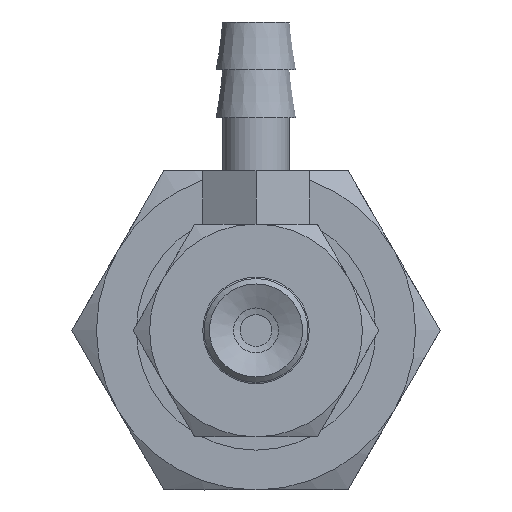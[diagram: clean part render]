
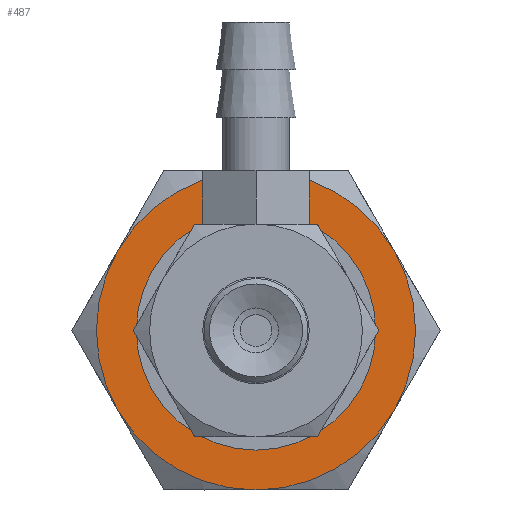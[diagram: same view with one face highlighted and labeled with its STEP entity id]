
A CAD part, front view. The second image highlights one B-rep face of the part: STEP entity #487.
In plain terms, the highlighted planar face has unit normal (0, -1, 0) as drawn and (-1, 0, 0) by its records, which use the part's own axes.
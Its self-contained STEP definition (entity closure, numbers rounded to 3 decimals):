
#487=ADVANCED_FACE('',(#661,#662),#663,.F.);
#661=FACE_BOUND('',#988,.T.);
#662=FACE_OUTER_BOUND('',#989,.T.);
#663=PLANE('',#990);
#988=EDGE_LOOP('',(#1492));
#989=EDGE_LOOP('',(#1493,#1494,#1495,#1496,#1497,#1498));
#990=AXIS2_PLACEMENT_3D('',#1499,#1500,#1501);
#1492=ORIENTED_EDGE('',*,*,#2209,.T.);
#1493=ORIENTED_EDGE('',*,*,#2214,.F.);
#1494=ORIENTED_EDGE('',*,*,#2179,.F.);
#1495=ORIENTED_EDGE('',*,*,#2177,.F.);
#1496=ORIENTED_EDGE('',*,*,#2215,.F.);
#1497=ORIENTED_EDGE('',*,*,#2213,.F.);
#1498=ORIENTED_EDGE('',*,*,#2212,.F.);
#1499=CARTESIAN_POINT('',(0.,0.0,0.0));
#1500=DIRECTION('',(1.0,0.0,0.0));
#1501=DIRECTION('',(0.0,1.0,0.0));
#2177=EDGE_CURVE('',#2439,#2436,#2440,.T.);
#2179=EDGE_CURVE('',#2436,#2442,#2443,.T.);
#2209=EDGE_CURVE('',#2491,#2491,#2492,.T.);
#2212=EDGE_CURVE('',#2472,#2493,#2496,.T.);
#2213=EDGE_CURVE('',#2493,#2486,#2497,.T.);
#2214=EDGE_CURVE('',#2442,#2472,#2498,.T.);
#2215=EDGE_CURVE('',#2486,#2439,#2499,.T.);
#2436=VERTEX_POINT('',#2886);
#2439=VERTEX_POINT('',#2909);
#2440=CIRCLE('',#2910,6.0);
#2442=VERTEX_POINT('',#2922);
#2443=CIRCLE('',#2923,6.0);
#2472=VERTEX_POINT('',#3044);
#2486=VERTEX_POINT('',#3110);
#2491=VERTEX_POINT('',#3135);
#2492=CIRCLE('',#3136,4.0);
#2493=VERTEX_POINT('',#3137);
#2496=CIRCLE('',#3160,6.0);
#2497=CIRCLE('',#3161,6.0);
#2498=CIRCLE('',#3162,6.0);
#2499=CIRCLE('',#3163,6.0);
#2886=CARTESIAN_POINT('',(0.,0.0,-6.0));
#2909=CARTESIAN_POINT('',(0.,-5.196,-3.0));
#2910=AXIS2_PLACEMENT_3D('',#3687,#3688,#3689);
#2922=CARTESIAN_POINT('',(0.,5.196,-3.0));
#2923=AXIS2_PLACEMENT_3D('',#3690,#3691,#3692);
#3044=CARTESIAN_POINT('',(0.,5.196,3.0));
#3110=CARTESIAN_POINT('',(0.,-5.196,3.0));
#3135=CARTESIAN_POINT('',(0.,0.0,-4.0));
#3136=AXIS2_PLACEMENT_3D('',#3724,#3725,#3726);
#3137=CARTESIAN_POINT('',(0.,0.0,6.0));
#3160=AXIS2_PLACEMENT_3D('',#3727,#3728,#3729);
#3161=AXIS2_PLACEMENT_3D('',#3730,#3731,#3732);
#3162=AXIS2_PLACEMENT_3D('',#3733,#3734,#3735);
#3163=AXIS2_PLACEMENT_3D('',#3736,#3737,#3738);
#3687=CARTESIAN_POINT('',(0.,0.0,0.0));
#3688=DIRECTION('',(1.0,0.0,0.0));
#3689=DIRECTION('',(0.0,0.0,-1.0));
#3690=CARTESIAN_POINT('',(0.,0.0,0.0));
#3691=DIRECTION('',(1.0,0.0,0.0));
#3692=DIRECTION('',(0.0,0.0,-1.0));
#3724=CARTESIAN_POINT('',(0.,0.0,0.0));
#3725=DIRECTION('',(1.0,0.0,0.0));
#3726=DIRECTION('',(0.0,0.0,-1.0));
#3727=CARTESIAN_POINT('',(0.,0.0,0.0));
#3728=DIRECTION('',(1.0,0.0,0.0));
#3729=DIRECTION('',(0.0,0.0,-1.0));
#3730=CARTESIAN_POINT('',(0.,0.0,0.0));
#3731=DIRECTION('',(1.0,0.0,0.0));
#3732=DIRECTION('',(0.0,0.0,-1.0));
#3733=CARTESIAN_POINT('',(0.,0.0,0.0));
#3734=DIRECTION('',(1.0,0.0,0.0));
#3735=DIRECTION('',(0.0,0.0,-1.0));
#3736=CARTESIAN_POINT('',(0.,0.0,0.0));
#3737=DIRECTION('',(1.0,0.0,0.0));
#3738=DIRECTION('',(0.0,0.0,-1.0));
